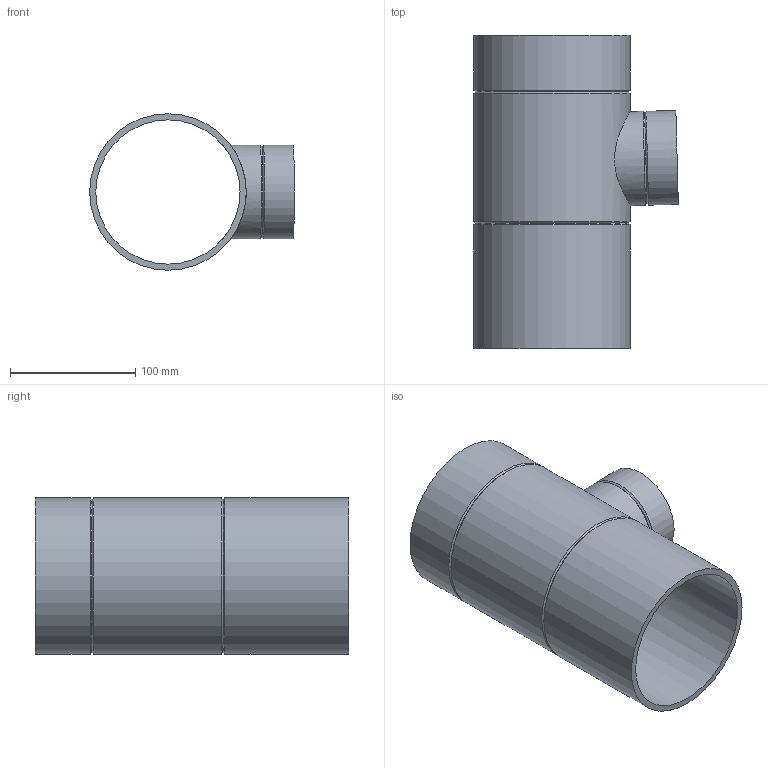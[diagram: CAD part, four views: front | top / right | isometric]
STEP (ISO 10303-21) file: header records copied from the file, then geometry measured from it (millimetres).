
FILE_DESCRIPTION(/* description */ (''),/* implementation_level */ '2;1');
FILE_NAME(/* name */ 'Z:\Geberit\Export\NewStep\368175.stp',/* time_stamp */ '2014-04-02T08:00:07+02:00',/* author */ ('nelson'),/* organization */ (''),/* preprocessor_version */ 'ST-DEVELOPER v15.2',/* originating_system */ 'Autodesk Inventor 2014',/* authorisation */ '');
FILE_SCHEMA (('AUTOMOTIVE_DESIGN { 1 0 10303 214 3 1 1 }'));
Length unit declared in the file: millimetre
Products named in the file (1): 368175
Bounding box: 163.45 x 250 x 125 mm (x, y, z)
Volume: 470392.5 mm3; surface area: 206129.6 mm2
Topology: 1 solids, 1 shells, 16 faces, 37 edges, 23 vertices
Faces by surface type: cylinder 7, cone 6, plane 3
Full cylindrical faces by diameter (mm): 69 x1, 75 x2, 115.2 x1, 125 x3
Entity records: 503 total; most frequent: CARTESIAN_POINT 181, DIRECTION 64, EDGE_LOOP 34, ORIENTED_EDGE 34, AXIS2_PLACEMENT_3D 32, FACE_BOUND 22, VERTEX_POINT 17, EDGE_CURVE 17
